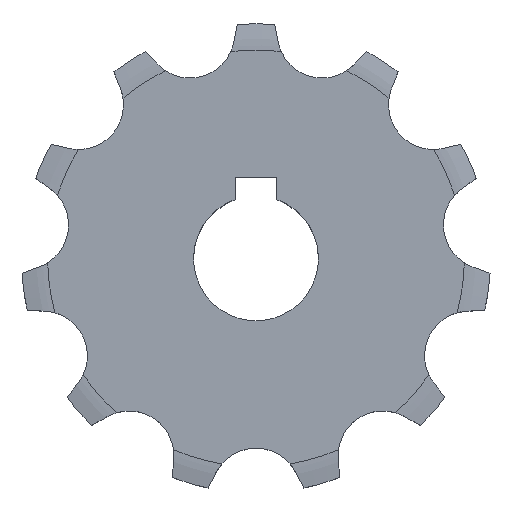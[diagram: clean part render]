
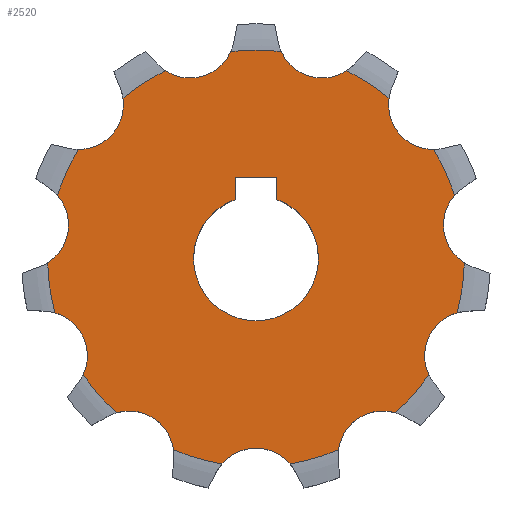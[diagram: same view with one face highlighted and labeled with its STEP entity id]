
A CAD part, top view. The second image highlights one B-rep face of the part: STEP entity #2520.
In plain terms, the highlighted planar face has unit normal (0, 0, 1).
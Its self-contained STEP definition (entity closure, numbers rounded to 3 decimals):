
#33=CARTESIAN_POINT('',(6.35,21.626,3.6));
#34=DIRECTION('',(0.,0.,1.));
#35=DIRECTION('',(-0.913,-0.408,0.));
#36=AXIS2_PLACEMENT_3D('',#33,#34,#35);
#42=CARTESIAN_POINT('',(0.,0.,3.6));
#43=DIRECTION('',(0.,0.,-1.));
#44=DIRECTION('',(0.435,0.901,0.));
#45=AXIS2_PLACEMENT_3D('',#42,#43,#44);
#50=CARTESIAN_POINT('',(17.034,14.76,3.6));
#51=DIRECTION('',(0.,0.,1.));
#52=DIRECTION('',(-0.989,0.151,0.));
#53=AXIS2_PLACEMENT_3D('',#50,#51,#52);
#58=CARTESIAN_POINT('',(0.,0.,3.6));
#59=DIRECTION('',(0.,0.,-1.));
#60=DIRECTION('',(0.853,0.523,0.));
#61=AXIS2_PLACEMENT_3D('',#58,#59,#60);
#66=CARTESIAN_POINT('',(22.31,3.208,3.6));
#67=DIRECTION('',(0.,0.,1.));
#68=DIRECTION('',(-0.75,0.661,0.));
#69=AXIS2_PLACEMENT_3D('',#66,#67,#68);
#74=CARTESIAN_POINT('',(0.,0.,3.6));
#75=DIRECTION('',(0.,0.,-1.));
#76=DIRECTION('',(1.,-0.021,0.));
#77=AXIS2_PLACEMENT_3D('',#74,#75,#76);
#82=CARTESIAN_POINT('',(20.502,-9.363,3.6));
#83=DIRECTION('',(0.,0.,1.));
#84=DIRECTION('',(-0.273,0.962,0.));
#85=AXIS2_PLACEMENT_3D('',#82,#83,#84);
#90=CARTESIAN_POINT('',(0.,0.,3.6));
#91=DIRECTION('',(0.,0.,-1.));
#92=DIRECTION('',(0.83,-0.558,0.));
#93=AXIS2_PLACEMENT_3D('',#90,#91,#92);
#98=CARTESIAN_POINT('',(12.186,-18.961,3.6));
#99=DIRECTION('',(0.,0.,1.));
#100=DIRECTION('',(0.29,0.957,0.));
#101=AXIS2_PLACEMENT_3D('',#98,#99,#100);
#106=CARTESIAN_POINT('',(0.,0.,3.6));
#107=DIRECTION('',(0.,0.,-1.));
#108=DIRECTION('',(0.396,-0.918,0.));
#109=AXIS2_PLACEMENT_3D('',#106,#107,#108);
#114=CARTESIAN_POINT('',(0.,-22.539,3.6));
#115=DIRECTION('',(0.,0.,1.));
#116=DIRECTION('',(0.761,0.648,0.));
#117=AXIS2_PLACEMENT_3D('',#114,#115,#116);
#122=CARTESIAN_POINT('',(0.,0.,3.6));
#123=DIRECTION('',(0.,0.,-1.));
#124=DIRECTION('',(-0.163,-0.987,0.));
#125=AXIS2_PLACEMENT_3D('',#122,#123,#124);
#130=CARTESIAN_POINT('',(-12.186,-18.961,3.6));
#131=DIRECTION('',(0.,0.,1.));
#132=DIRECTION('',(0.991,0.134,0.));
#133=AXIS2_PLACEMENT_3D('',#130,#131,#132);
#138=CARTESIAN_POINT('',(0.,0.,3.6));
#139=DIRECTION('',(0.,0.,-1.));
#140=DIRECTION('',(-0.671,-0.742,0.));
#141=AXIS2_PLACEMENT_3D('',#138,#139,#140);
#146=CARTESIAN_POINT('',(-20.502,-9.363,3.6));
#147=DIRECTION('',(0.,0.,1.));
#148=DIRECTION('',(0.906,-0.423,0.));
#149=AXIS2_PLACEMENT_3D('',#146,#147,#148);
#154=CARTESIAN_POINT('',(0.,0.,3.6));
#155=DIRECTION('',(0.,0.,-1.));
#156=DIRECTION('',(-0.965,-0.261,0.));
#157=AXIS2_PLACEMENT_3D('',#154,#155,#156);
#162=CARTESIAN_POINT('',(-22.31,3.208,3.6));
#163=DIRECTION('',(0.,0.,1.));
#164=DIRECTION('',(0.533,-0.846,0.));
#165=AXIS2_PLACEMENT_3D('',#162,#163,#164);
#170=CARTESIAN_POINT('',(0.,0.,3.6));
#171=DIRECTION('',(0.,0.,-1.));
#172=DIRECTION('',(-0.953,0.302,0.));
#173=AXIS2_PLACEMENT_3D('',#170,#171,#172);
#178=CARTESIAN_POINT('',(-17.034,14.76,3.6));
#179=DIRECTION('',(0.,0.,1.));
#180=DIRECTION('',(-0.009,-1.,0.));
#181=AXIS2_PLACEMENT_3D('',#178,#179,#180);
#186=CARTESIAN_POINT('',(0.,0.,3.6));
#187=DIRECTION('',(0.,0.,-1.));
#188=DIRECTION('',(-0.639,0.77,0.));
#189=AXIS2_PLACEMENT_3D('',#186,#187,#188);
#194=CARTESIAN_POINT('',(-6.35,21.626,3.6));
#195=DIRECTION('',(0.,0.,1.));
#196=DIRECTION('',(-0.548,-0.837,0.));
#197=AXIS2_PLACEMENT_3D('',#194,#195,#196);
#202=DIRECTION('',(0.,1.,0.));
#203=VECTOR('',#202,2.143);
#204=CARTESIAN_POINT('',(2.,5.657,3.6));
#205=LINE('',#204,#203);
#209=DIRECTION('',(-1.,0.,0.));
#210=VECTOR('',#209,4.);
#211=CARTESIAN_POINT('',(2.,7.8,3.6));
#212=LINE('',#211,#210);
#216=DIRECTION('',(0.,-1.,0.));
#217=VECTOR('',#216,2.143);
#218=CARTESIAN_POINT('',(-2.,7.8,3.6));
#219=LINE('',#218,#217);
#255=CARTESIAN_POINT('',(0.,0.,3.6));
#256=DIRECTION('',(0.,0.,1.));
#257=DIRECTION('',(0.121,0.993,0.));
#258=AXIS2_PLACEMENT_3D('',#255,#256,#257);
#916=CARTESIAN_POINT('',(2.426,19.874,3.6));
#2106=CARTESIAN_POINT('',(0.,0.,3.6));
#2107=DIRECTION('',(0.,0.,-1.));
#2108=DIRECTION('',(0.333,0.943,0.));
#2109=AXIS2_PLACEMENT_3D('',#2106,#2107,#2108);
#2189=CARTESIAN_POINT('',(8.704,18.031,3.6));
#2190=CARTESIAN_POINT('',(12.786,15.408,3.6));
#2191=VERTEX_POINT('',#2189);
#2192=VERTEX_POINT('',#2190);
#2193=CARTESIAN_POINT('',(17.071,10.463,3.6));
#2194=CARTESIAN_POINT('',(19.086,6.05,3.6));
#2195=VERTEX_POINT('',#2193);
#2196=VERTEX_POINT('',#2194);
#2197=CARTESIAN_POINT('',(20.017,-0.427,3.6));
#2198=CARTESIAN_POINT('',(19.327,-5.229,3.6));
#2199=VERTEX_POINT('',#2197);
#2200=VERTEX_POINT('',#2198);
#2201=CARTESIAN_POINT('',(-3.272,-19.753,3.6));
#2202=CARTESIAN_POINT('',(-7.927,-18.386,3.6));
#2203=VERTEX_POINT('',#2201);
#2204=VERTEX_POINT('',#2202);
#2205=CARTESIAN_POINT('',(-13.432,-14.848,3.6));
#2206=CARTESIAN_POINT('',(-16.609,-11.182,3.6));
#2207=VERTEX_POINT('',#2205);
#2208=VERTEX_POINT('',#2206);
#2209=CARTESIAN_POINT('',(-19.327,-5.229,3.6));
#2210=CARTESIAN_POINT('',(-20.017,-0.427,3.6));
#2211=VERTEX_POINT('',#2209);
#2212=VERTEX_POINT('',#2210);
#2213=CARTESIAN_POINT('',(-19.086,6.05,3.6));
#2214=CARTESIAN_POINT('',(-17.071,10.463,3.6));
#2215=VERTEX_POINT('',#2213);
#2216=VERTEX_POINT('',#2214);
#2246=VERTEX_POINT('',#916);
#2269=CARTESIAN_POINT('',(16.609,-11.182,3.6));
#2270=VERTEX_POINT('',#2269);
#2273=CARTESIAN_POINT('',(13.432,-14.848,3.6));
#2274=CARTESIAN_POINT('',(7.927,-18.386,3.6));
#2275=VERTEX_POINT('',#2273);
#2276=VERTEX_POINT('',#2274);
#2281=CARTESIAN_POINT('',(3.272,-19.753,3.6));
#2282=VERTEX_POINT('',#2281);
#2305=CARTESIAN_POINT('',(-12.786,15.408,3.6));
#2306=CARTESIAN_POINT('',(-8.704,18.031,3.6));
#2307=VERTEX_POINT('',#2305);
#2308=VERTEX_POINT('',#2306);
#2417=CARTESIAN_POINT('',(-2.426,19.874,3.6));
#2418=VERTEX_POINT('',#2417);
#2429=CARTESIAN_POINT('',(2.,5.657,3.6));
#2430=VERTEX_POINT('',#2429);
#2431=CARTESIAN_POINT('',(-2.,5.657,3.6));
#2432=VERTEX_POINT('',#2431);
#2433=CARTESIAN_POINT('',(2.,7.8,3.6));
#2434=VERTEX_POINT('',#2433);
#2435=CARTESIAN_POINT('',(-2.,7.8,3.6));
#2436=VERTEX_POINT('',#2435);
#2459=CARTESIAN_POINT('',(0.,0.,3.6));
#2460=DIRECTION('',(0.,0.,1.));
#2461=DIRECTION('',(1.,0.,0.));
#2462=AXIS2_PLACEMENT_3D('',#2459,#2460,#2461);
#2463=PLANE('',#2462);
#2465=ORIENTED_EDGE('',*,*,#2464,.F.);
#2467=ORIENTED_EDGE('',*,*,#2466,.T.);
#2469=ORIENTED_EDGE('',*,*,#2468,.T.);
#2471=ORIENTED_EDGE('',*,*,#2470,.T.);
#2473=ORIENTED_EDGE('',*,*,#2472,.T.);
#2475=ORIENTED_EDGE('',*,*,#2474,.T.);
#2477=ORIENTED_EDGE('',*,*,#2476,.T.);
#2479=ORIENTED_EDGE('',*,*,#2478,.T.);
#2481=ORIENTED_EDGE('',*,*,#2480,.T.);
#2483=ORIENTED_EDGE('',*,*,#2482,.T.);
#2485=ORIENTED_EDGE('',*,*,#2484,.T.);
#2487=ORIENTED_EDGE('',*,*,#2486,.T.);
#2489=ORIENTED_EDGE('',*,*,#2488,.T.);
#2491=ORIENTED_EDGE('',*,*,#2490,.T.);
#2493=ORIENTED_EDGE('',*,*,#2492,.T.);
#2495=ORIENTED_EDGE('',*,*,#2494,.T.);
#2497=ORIENTED_EDGE('',*,*,#2496,.T.);
#2499=ORIENTED_EDGE('',*,*,#2498,.T.);
#2501=ORIENTED_EDGE('',*,*,#2500,.T.);
#2503=ORIENTED_EDGE('',*,*,#2502,.T.);
#2505=ORIENTED_EDGE('',*,*,#2504,.T.);
#2507=ORIENTED_EDGE('',*,*,#2506,.T.);
#2508=EDGE_LOOP('',(#2465,#2467,#2469,#2471,#2473,#2475,#2477,#2479,#2481,#2483,
#2485,#2487,#2489,#2491,#2493,#2495,#2497,#2499,#2501,#2503,#2505,#2507));
#2509=FACE_OUTER_BOUND('',#2508,.F.);
#2511=ORIENTED_EDGE('',*,*,#2510,.T.);
#2513=ORIENTED_EDGE('',*,*,#2512,.T.);
#2515=ORIENTED_EDGE('',*,*,#2514,.T.);
#2517=ORIENTED_EDGE('',*,*,#2516,.F.);
#2518=EDGE_LOOP('',(#2511,#2513,#2515,#2517));
#2519=FACE_BOUND('',#2518,.F.);
#2520=ADVANCED_FACE('',(#2509,#2519),#2463,.T.);
#37=CIRCLE('',#36,4.298);
#46=CIRCLE('',#45,20.022);
#54=CIRCLE('',#53,4.298);
#62=CIRCLE('',#61,20.022);
#70=CIRCLE('',#69,4.298);
#78=CIRCLE('',#77,20.022);
#86=CIRCLE('',#85,4.298);
#94=CIRCLE('',#93,20.022);
#102=CIRCLE('',#101,4.298);
#110=CIRCLE('',#109,20.022);
#118=CIRCLE('',#117,4.298);
#126=CIRCLE('',#125,20.022);
#134=CIRCLE('',#133,4.298);
#142=CIRCLE('',#141,20.022);
#150=CIRCLE('',#149,4.298);
#158=CIRCLE('',#157,20.022);
#166=CIRCLE('',#165,4.298);
#174=CIRCLE('',#173,20.022);
#182=CIRCLE('',#181,4.298);
#190=CIRCLE('',#189,20.022);
#198=CIRCLE('',#197,4.298);
#259=CIRCLE('',#258,20.022);
#2110=CIRCLE('',#2109,6.);
#2464=EDGE_CURVE('',#2246,#2418,#259,.T.);
#2466=EDGE_CURVE('',#2246,#2191,#37,.T.);
#2468=EDGE_CURVE('',#2191,#2192,#46,.T.);
#2470=EDGE_CURVE('',#2192,#2195,#54,.T.);
#2472=EDGE_CURVE('',#2195,#2196,#62,.T.);
#2474=EDGE_CURVE('',#2196,#2199,#70,.T.);
#2476=EDGE_CURVE('',#2199,#2200,#78,.T.);
#2478=EDGE_CURVE('',#2200,#2270,#86,.T.);
#2480=EDGE_CURVE('',#2270,#2275,#94,.T.);
#2482=EDGE_CURVE('',#2275,#2276,#102,.T.);
#2484=EDGE_CURVE('',#2276,#2282,#110,.T.);
#2486=EDGE_CURVE('',#2282,#2203,#118,.T.);
#2488=EDGE_CURVE('',#2203,#2204,#126,.T.);
#2490=EDGE_CURVE('',#2204,#2207,#134,.T.);
#2492=EDGE_CURVE('',#2207,#2208,#142,.T.);
#2494=EDGE_CURVE('',#2208,#2211,#150,.T.);
#2496=EDGE_CURVE('',#2211,#2212,#158,.T.);
#2498=EDGE_CURVE('',#2212,#2215,#166,.T.);
#2500=EDGE_CURVE('',#2215,#2216,#174,.T.);
#2502=EDGE_CURVE('',#2216,#2307,#182,.T.);
#2504=EDGE_CURVE('',#2307,#2308,#190,.T.);
#2506=EDGE_CURVE('',#2308,#2418,#198,.T.);
#2510=EDGE_CURVE('',#2430,#2434,#205,.T.);
#2512=EDGE_CURVE('',#2434,#2436,#212,.T.);
#2514=EDGE_CURVE('',#2436,#2432,#219,.T.);
#2516=EDGE_CURVE('',#2430,#2432,#2110,.T.);
